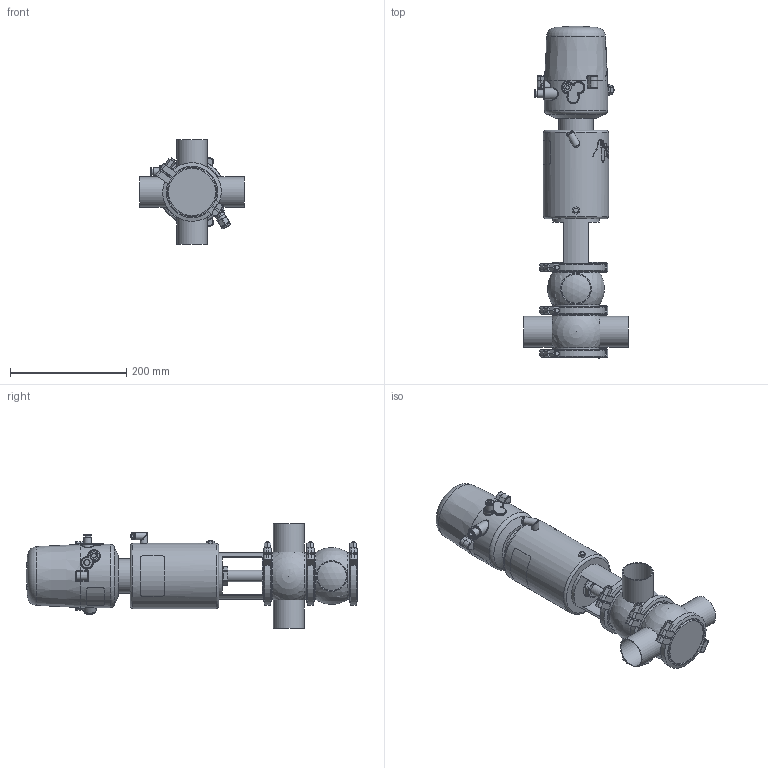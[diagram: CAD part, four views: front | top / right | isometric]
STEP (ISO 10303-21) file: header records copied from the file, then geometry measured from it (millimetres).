
FILE_DESCRIPTION (( 'STEP AP214' ), '1' );
FILE_NAME ('INNOVA M C W DIN 050 T2 AS NC & C-TOP S_10.241.16.0043.STEP', '2024-08-07T06:30:19', ( '' ), ( '' ), 'SwSTEP 2.0', 'SolidWorks 2023', '' );
FILE_SCHEMA (( 'AUTOMOTIVE_DESIGN' ));
Length unit declared in the file: millimetre
Products named in the file (8): 10.426.15.0001_C-TOP S - 1 EV; 10.240.15.0010_DN 050; 10.240.15.0001_DN 050; 10.241.15.0001_DIN 050; 10.240.15.0017_Estàndard; INNOVA M C W DIN 050 T2 AS NC & C-TOP S_10.241.16.0043; 10.240.15.0007_DIN 050; 10.240.15.0014_T2 AS P180
Assembly tree (10 placements, depth 2):
  INNOVA M C W DIN 050 T2 AS NC & C-TOP S_10.241.16.0043
    10.240.15.0007_DIN 050  x2
    10.240.15.0010_DN 050
    10.240.15.0014_T2 AS P180
    10.240.15.0017_Estàndard
    10.426.15.0001_C-TOP S - 1 EV
    10.240.15.0001_DN 050  x3
    10.241.15.0001_DIN 050
Bounding box: 180 x 572.27 x 180 mm (x, y, z)
Volume: 4245075.1 mm3; surface area: 412749.4 mm2
Topology: 11 solids, 11 shells, 1242 faces, 3012 edges, 2002 vertices
Faces by surface type: plane 444, cylinder 381, cone 211, bspline 160, torus 36, sphere 10
Full cylindrical faces by diameter (mm): 0.371 x17, 0.512 x16, 0.658 x16, 0.795 x16, 0.94 x15, 1.098 x15, 1.241 x13, 1.382 x13, 1.523 x11, 1.669 x10, 2.201 x1, 4 x2, 5.5 x2, 6 x2, 6.15 x1, 8 x8, 8.5 x1, 10 x1, 10.5 x1, 11 x2, 12.5 x3, 13 x2, 13.5 x2, 16 x1, 17 x3, 20 x3, 20.5 x1, 22 x2, 31 x1, 34.5 x3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
Entity records: 57821 total; most frequent: CARTESIAN_POINT 27727, ORIENTED_EDGE 4492, DIRECTION 3623, EDGE_CURVE 2246, VERTEX_POINT 1597, EDGE_LOOP 1555, AXIS2_PLACEMENT_3D 1483, FACE_OUTER_BOUND 1319
